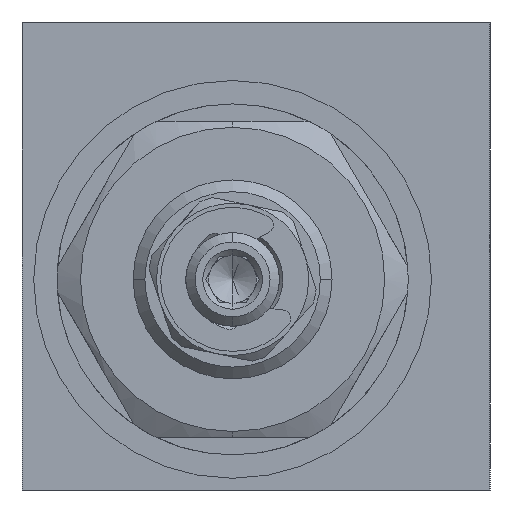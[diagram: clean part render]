
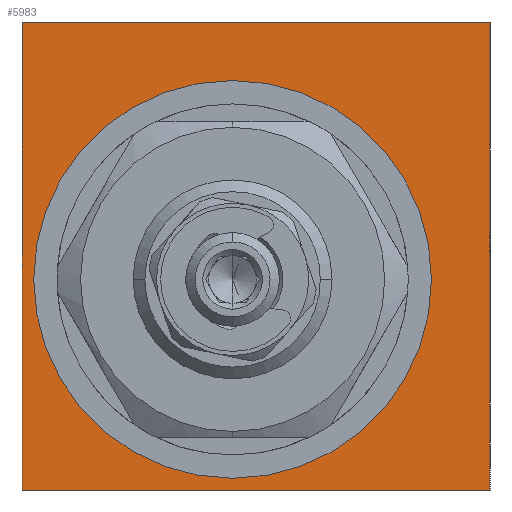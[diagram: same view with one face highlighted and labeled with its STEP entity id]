
A CAD part, left-side view. The second image highlights one B-rep face of the part: STEP entity #5983.
In plain terms, the highlighted planar face has unit normal (-1, 0, 0).
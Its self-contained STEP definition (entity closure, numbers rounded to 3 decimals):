
#22 = ORIENTED_EDGE ( 'NONE', *, *, #4950, .F. ) ;
#200 = EDGE_LOOP ( 'NONE', ( #8315, #13821 ) ) ;
#984 = AXIS2_PLACEMENT_3D ( 'NONE', #13325, #6637, #14435 ) ;
#1320 = ORIENTED_EDGE ( 'NONE', *, *, #11095, .F. ) ;
#1339 = VERTEX_POINT ( 'NONE', #4485 ) ;
#2013 = EDGE_CURVE ( 'NONE', #14196, #1339, #5954, .T. ) ;
#2385 = CARTESIAN_POINT ( 'NONE',  ( 0., 2., -2. ) ) ;
#2405 = VECTOR ( 'NONE', #4153, 1000. ) ;
#2482 = VECTOR ( 'NONE', #5934, 1000. ) ;
#2847 = VECTOR ( 'NONE', #4721, 1000. ) ;
#3115 = DIRECTION ( 'NONE',  ( 0., 1., 0. ) ) ;
#3486 = CARTESIAN_POINT ( 'NONE',  ( 0., -20., -20. ) ) ;
#3520 = DIRECTION ( 'NONE',  ( 0., 0., 1. ) ) ;
#4153 = DIRECTION ( 'NONE',  ( 0., 0., 1. ) ) ;
#4218 = CIRCLE ( 'NONE', #13239, 17. ) ;
#4485 = CARTESIAN_POINT ( 'NONE',  ( 0., 2., -19. ) ) ;
#4721 = DIRECTION ( 'NONE',  ( 0., -1., 0. ) ) ;
#4950 = EDGE_CURVE ( 'NONE', #13744, #13842, #5845, .T. ) ;
#5041 = VERTEX_POINT ( 'NONE', #11734 ) ;
#5129 = PLANE ( 'NONE',  #14082 ) ;
#5352 = ORIENTED_EDGE ( 'NONE', *, *, #10219, .F. ) ;
#5474 = EDGE_CURVE ( 'NONE', #1339, #14196, #4218, .T. ) ;
#5845 = LINE ( 'NONE', #8045, #2847 ) ;
#5934 = DIRECTION ( 'NONE',  ( 0., 0., -1. ) ) ;
#5954 = CIRCLE ( 'NONE', #984, 17. ) ;
#5983 = ADVANCED_FACE ( 'NONE', ( #13866, #13556 ), #5129, .T. ) ;
#6172 = LINE ( 'NONE', #10972, #14385 ) ;
#6302 = CARTESIAN_POINT ( 'NONE',  ( 0., 20., -20. ) ) ;
#6637 = DIRECTION ( 'NONE',  ( -1., 0., 0. ) ) ;
#7420 = DIRECTION ( 'NONE',  ( 0., 0., 1. ) ) ;
#8045 = CARTESIAN_POINT ( 'NONE',  ( 0., -20., 20. ) ) ;
#8182 = ORIENTED_EDGE ( 'NONE', *, *, #14493, .F. ) ;
#8315 = ORIENTED_EDGE ( 'NONE', *, *, #2013, .F. ) ;
#8517 = CARTESIAN_POINT ( 'NONE',  ( 0., 20., 20. ) ) ;
#9324 = CARTESIAN_POINT ( 'NONE',  ( 0., 2., 15. ) ) ;
#9876 = CARTESIAN_POINT ( 'NONE',  ( 0., -20., 20. ) ) ;
#10141 = VERTEX_POINT ( 'NONE', #3486 ) ;
#10219 = EDGE_CURVE ( 'NONE', #13842, #10141, #14046, .T. ) ;
#10220 = DIRECTION ( 'NONE',  ( -1., 0., 0. ) ) ;
#10870 = CARTESIAN_POINT ( 'NONE',  ( 0., 20., 20. ) ) ;
#10972 = CARTESIAN_POINT ( 'NONE',  ( 0., -20., -20. ) ) ;
#11024 = LINE ( 'NONE', #10870, #2405 ) ;
#11095 = EDGE_CURVE ( 'NONE', #10141, #5041, #6172, .T. ) ;
#11529 = EDGE_LOOP ( 'NONE', ( #1320, #5352, #22, #8182 ) ) ;
#11734 = CARTESIAN_POINT ( 'NONE',  ( 0., 20., -20. ) ) ;
#13239 = AXIS2_PLACEMENT_3D ( 'NONE', #2385, #10220, #3520 ) ;
#13325 = CARTESIAN_POINT ( 'NONE',  ( 0., 2., -2. ) ) ;
#13556 = FACE_OUTER_BOUND ( 'NONE', #11529, .T. ) ;
#13744 = VERTEX_POINT ( 'NONE', #8517 ) ;
#13750 = CARTESIAN_POINT ( 'NONE',  ( 0., -20., 20. ) ) ;
#13821 = ORIENTED_EDGE ( 'NONE', *, *, #5474, .F. ) ;
#13842 = VERTEX_POINT ( 'NONE', #9876 ) ;
#13866 = FACE_BOUND ( 'NONE', #200, .T. ) ;
#14046 = LINE ( 'NONE', #13750, #2482 ) ;
#14082 = AXIS2_PLACEMENT_3D ( 'NONE', #6302, #14103, #7420 ) ;
#14103 = DIRECTION ( 'NONE',  ( -1., 0., 0. ) ) ;
#14196 = VERTEX_POINT ( 'NONE', #9324 ) ;
#14385 = VECTOR ( 'NONE', #3115, 1000. ) ;
#14435 = DIRECTION ( 'NONE',  ( 0., 0., 1. ) ) ;
#14493 = EDGE_CURVE ( 'NONE', #5041, #13744, #11024, .T. ) ;
